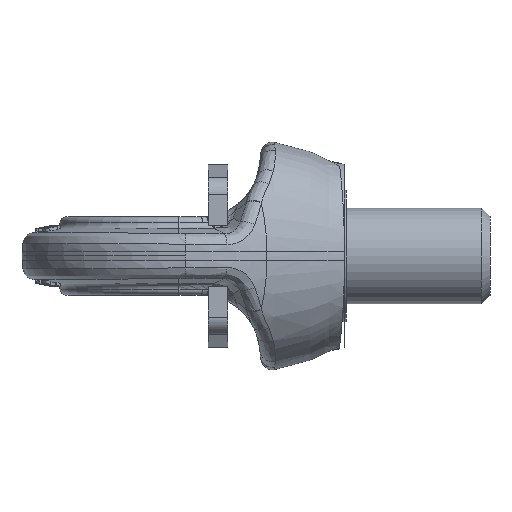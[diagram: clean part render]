
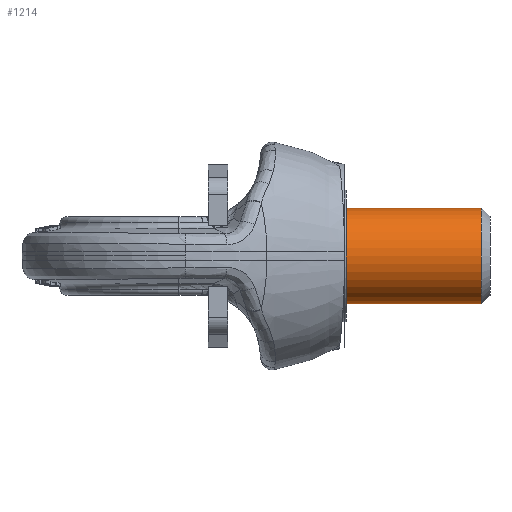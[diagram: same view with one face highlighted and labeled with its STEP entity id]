
A CAD part, left-side view. The second image highlights one B-rep face of the part: STEP entity #1214.
In plain terms, the highlighted cylindrical face has radius 11 mm (diameter 22 mm), a partial arc.
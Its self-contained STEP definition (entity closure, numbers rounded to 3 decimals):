
#1214=ADVANCED_FACE('',(#2481),#2482,.T.);
#2481=FACE_OUTER_BOUND('',#18252,.T.);
#2482=CYLINDRICAL_SURFACE('',#18253,11.0);
#18252=EDGE_LOOP('',(#21283,#21284,#21285,#21286));
#18253=AXIS2_PLACEMENT_3D('',#21287,#21288,#21289);
#21283=ORIENTED_EDGE('',*,*,#23106,.T.);
#21284=ORIENTED_EDGE('',*,*,#23117,.T.);
#21285=ORIENTED_EDGE('',*,*,#23108,.T.);
#21286=ORIENTED_EDGE('',*,*,#23119,.T.);
#21287=CARTESIAN_POINT('',(0.,-68.5,0.));
#21288=DIRECTION('',(0.0,1.0,0.0));
#21289=DIRECTION('',(0.0,0.0,-1.0));
#23106=EDGE_CURVE('',#25233,#25234,#25235,.T.);
#23108=EDGE_CURVE('',#25238,#25236,#25239,.T.);
#23117=EDGE_CURVE('',#25234,#25238,#25250,.T.);
#23119=EDGE_CURVE('',#25236,#25233,#25252,.T.);
#25233=VERTEX_POINT('',#37818);
#25234=VERTEX_POINT('',#37819);
#25235=LINE('',#37820,#37821);
#25236=VERTEX_POINT('',#37822);
#25238=VERTEX_POINT('',#37824);
#25239=LINE('',#37825,#37826);
#25250=CIRCLE('',#37839,11.0);
#25252=CIRCLE('',#37841,11.0);
#37818=CARTESIAN_POINT('',(0.,-38.5,-11.0));
#37819=CARTESIAN_POINT('',(0.,-69.5,-11.0));
#37820=CARTESIAN_POINT('',(0.,-68.5,-11.0));
#37821=VECTOR('',#39395,1.0);
#37822=CARTESIAN_POINT('',(0.,-38.5,11.0));
#37824=CARTESIAN_POINT('',(0.,-69.5,11.0));
#37825=CARTESIAN_POINT('',(0.,-68.5,11.0));
#37826=VECTOR('',#39399,1.0);
#37839=AXIS2_PLACEMENT_3D('',#39411,#39412,#39413);
#37841=AXIS2_PLACEMENT_3D('',#39414,#39415,#39416);
#39395=DIRECTION('',(0.0,-1.0,-0.0));
#39399=DIRECTION('',(0.0,1.0,0.0));
#39411=CARTESIAN_POINT('',(0.,-69.5,0.));
#39412=DIRECTION('',(0.0,1.0,0.0));
#39413=DIRECTION('',(0.0,0.0,1.0));
#39414=CARTESIAN_POINT('',(0.,-38.5,0.));
#39415=DIRECTION('',(0.0,-1.0,0.0));
#39416=DIRECTION('',(0.0,0.0,-1.0));
